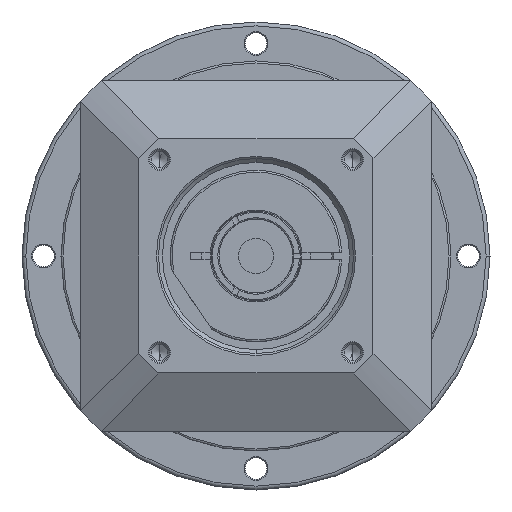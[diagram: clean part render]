
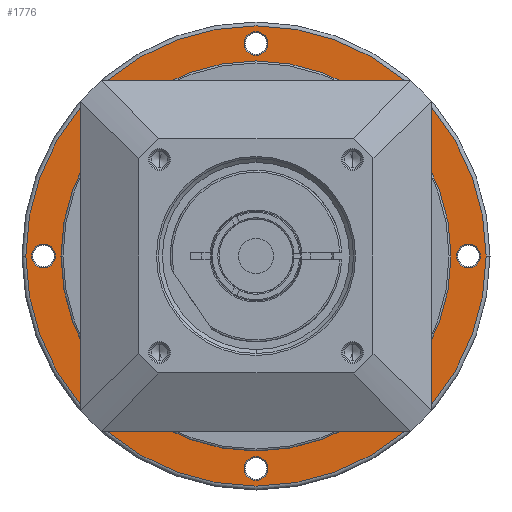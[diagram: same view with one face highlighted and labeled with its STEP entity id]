
A CAD part, left-side view. The second image highlights one B-rep face of the part: STEP entity #1776.
In plain terms, the highlighted planar face has unit normal (-1, 0, 0).
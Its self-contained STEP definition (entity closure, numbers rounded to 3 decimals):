
#283=CARTESIAN_POINT('',(-7.,38.537,-38.537));
#284=DIRECTION('',(-1.,0.,0.));
#285=DIRECTION('',(0.,-1.,0.));
#286=AXIS2_PLACEMENT_3D('',#283,#284,#285);
#301=CARTESIAN_POINT('',(-7.,0.,0.));
#302=DIRECTION('',(1.,0.,0.));
#303=DIRECTION('',(0.,-1.,0.));
#304=AXIS2_PLACEMENT_3D('',#301,#302,#303);
#306=CARTESIAN_POINT('',(-7.,0.,0.));
#307=DIRECTION('',(1.,0.,0.));
#308=DIRECTION('',(0.,1.,0.));
#309=AXIS2_PLACEMENT_3D('',#306,#307,#308);
#311=CARTESIAN_POINT('',(-7.,38.537,-38.537));
#312=DIRECTION('',(-1.,0.,0.));
#313=DIRECTION('',(0.,1.,0.));
#314=AXIS2_PLACEMENT_3D('',#311,#312,#313);
#321=CARTESIAN_POINT('',(-7.,0.,-54.5));
#322=DIRECTION('',(-1.,0.,0.));
#323=DIRECTION('',(0.,-1.,0.));
#324=AXIS2_PLACEMENT_3D('',#321,#322,#323);
#339=CARTESIAN_POINT('',(-7.,0.,-54.5));
#340=DIRECTION('',(-1.,0.,0.));
#341=DIRECTION('',(0.,1.,0.));
#342=AXIS2_PLACEMENT_3D('',#339,#340,#341);
#385=CARTESIAN_POINT('',(-7.,-38.537,-38.537));
#386=DIRECTION('',(-1.,0.,0.));
#387=DIRECTION('',(0.,-1.,0.));
#388=AXIS2_PLACEMENT_3D('',#385,#386,#387);
#403=CARTESIAN_POINT('',(-7.,-38.537,-38.537));
#404=DIRECTION('',(-1.,0.,0.));
#405=DIRECTION('',(0.,1.,0.));
#406=AXIS2_PLACEMENT_3D('',#403,#404,#405);
#449=CARTESIAN_POINT('',(-7.,-54.5,0.));
#450=DIRECTION('',(-1.,0.,0.));
#451=DIRECTION('',(0.,-1.,0.));
#452=AXIS2_PLACEMENT_3D('',#449,#450,#451);
#467=CARTESIAN_POINT('',(-7.,-54.5,0.));
#468=DIRECTION('',(-1.,0.,0.));
#469=DIRECTION('',(0.,1.,0.));
#470=AXIS2_PLACEMENT_3D('',#467,#468,#469);
#513=CARTESIAN_POINT('',(-7.,-38.537,38.537));
#514=DIRECTION('',(-1.,0.,0.));
#515=DIRECTION('',(0.,-1.,0.));
#516=AXIS2_PLACEMENT_3D('',#513,#514,#515);
#531=CARTESIAN_POINT('',(-7.,-38.537,38.537));
#532=DIRECTION('',(-1.,0.,0.));
#533=DIRECTION('',(0.,1.,0.));
#534=AXIS2_PLACEMENT_3D('',#531,#532,#533);
#577=CARTESIAN_POINT('',(-7.,0.,54.5));
#578=DIRECTION('',(-1.,0.,0.));
#579=DIRECTION('',(0.,-1.,0.));
#580=AXIS2_PLACEMENT_3D('',#577,#578,#579);
#595=CARTESIAN_POINT('',(-7.,0.,54.5));
#596=DIRECTION('',(-1.,0.,0.));
#597=DIRECTION('',(0.,1.,0.));
#598=AXIS2_PLACEMENT_3D('',#595,#596,#597);
#641=CARTESIAN_POINT('',(-7.,38.537,38.537));
#642=DIRECTION('',(-1.,0.,0.));
#643=DIRECTION('',(0.,-1.,0.));
#644=AXIS2_PLACEMENT_3D('',#641,#642,#643);
#659=CARTESIAN_POINT('',(-7.,38.537,38.537));
#660=DIRECTION('',(-1.,0.,0.));
#661=DIRECTION('',(0.,1.,0.));
#662=AXIS2_PLACEMENT_3D('',#659,#660,#661);
#801=CARTESIAN_POINT('',(-7.,54.5,0.));
#802=DIRECTION('',(-1.,0.,0.));
#803=DIRECTION('',(0.,-1.,0.));
#804=AXIS2_PLACEMENT_3D('',#801,#802,#803);
#819=CARTESIAN_POINT('',(-7.,54.5,0.));
#820=DIRECTION('',(-1.,0.,0.));
#821=DIRECTION('',(0.,1.,0.));
#822=AXIS2_PLACEMENT_3D('',#819,#820,#821);
#865=CARTESIAN_POINT('',(-7.,0.,0.));
#866=DIRECTION('',(-1.,0.,0.));
#867=DIRECTION('',(0.,-1.,0.));
#868=AXIS2_PLACEMENT_3D('',#865,#866,#867);
#880=CARTESIAN_POINT('',(-7.,0.,0.));
#881=DIRECTION('',(-1.,0.,0.));
#882=DIRECTION('',(0.,1.,0.));
#883=AXIS2_PLACEMENT_3D('',#880,#881,#882);
#941=CARTESIAN_POINT('',(-7.,-59.,0.));
#942=CARTESIAN_POINT('',(-7.,59.,0.));
#943=VERTEX_POINT('',#941);
#944=VERTEX_POINT('',#942);
#957=CARTESIAN_POINT('',(-7.,57.55,0.));
#958=CARTESIAN_POINT('',(-7.,51.45,0.));
#959=VERTEX_POINT('',#957);
#960=VERTEX_POINT('',#958);
#973=CARTESIAN_POINT('',(-7.,41.587,38.537));
#974=CARTESIAN_POINT('',(-7.,35.487,38.537));
#975=VERTEX_POINT('',#973);
#976=VERTEX_POINT('',#974);
#989=CARTESIAN_POINT('',(-7.,3.05,54.5));
#990=CARTESIAN_POINT('',(-7.,-3.05,54.5));
#991=VERTEX_POINT('',#989);
#992=VERTEX_POINT('',#990);
#1005=CARTESIAN_POINT('',(-7.,-35.487,38.537));
#1006=CARTESIAN_POINT('',(-7.,-41.587,38.537));
#1007=VERTEX_POINT('',#1005);
#1008=VERTEX_POINT('',#1006);
#1021=CARTESIAN_POINT('',(-7.,-51.45,0.));
#1022=CARTESIAN_POINT('',(-7.,-57.55,0.));
#1023=VERTEX_POINT('',#1021);
#1024=VERTEX_POINT('',#1022);
#1037=CARTESIAN_POINT('',(-7.,-35.487,-38.537));
#1038=CARTESIAN_POINT('',(-7.,-41.587,-38.537));
#1039=VERTEX_POINT('',#1037);
#1040=VERTEX_POINT('',#1038);
#1053=CARTESIAN_POINT('',(-7.,3.05,-54.5));
#1054=CARTESIAN_POINT('',(-7.,-3.05,-54.5));
#1055=VERTEX_POINT('',#1053);
#1056=VERTEX_POINT('',#1054);
#1069=CARTESIAN_POINT('',(-7.,41.587,-38.537));
#1070=CARTESIAN_POINT('',(-7.,35.487,-38.537));
#1071=VERTEX_POINT('',#1069);
#1072=VERTEX_POINT('',#1070);
#1105=CARTESIAN_POINT('',(-7.,-49.6,0.));
#1106=CARTESIAN_POINT('',(-7.,49.6,0.));
#1107=VERTEX_POINT('',#1105);
#1108=VERTEX_POINT('',#1106);
#1712=CARTESIAN_POINT('',(-7.,0.,0.));
#1713=DIRECTION('',(1.,0.,0.));
#1714=DIRECTION('',(0.,-1.,0.));
#1715=AXIS2_PLACEMENT_3D('',#1712,#1713,#1714);
#1716=PLANE('',#1715);
#1718=ORIENTED_EDGE('',*,*,#1717,.F.);
#1720=ORIENTED_EDGE('',*,*,#1719,.F.);
#1721=EDGE_LOOP('',(#1718,#1720));
#1722=FACE_OUTER_BOUND('',#1721,.F.);
#1723=ORIENTED_EDGE('',*,*,#1702,.T.);
#1725=ORIENTED_EDGE('',*,*,#1724,.T.);
#1726=EDGE_LOOP('',(#1723,#1725));
#1727=FACE_BOUND('',#1726,.F.);
#1729=ORIENTED_EDGE('',*,*,#1728,.T.);
#1731=ORIENTED_EDGE('',*,*,#1730,.T.);
#1732=EDGE_LOOP('',(#1729,#1731));
#1733=FACE_BOUND('',#1732,.F.);
#1735=ORIENTED_EDGE('',*,*,#1734,.T.);
#1737=ORIENTED_EDGE('',*,*,#1736,.T.);
#1738=EDGE_LOOP('',(#1735,#1737));
#1739=FACE_BOUND('',#1738,.F.);
#1741=ORIENTED_EDGE('',*,*,#1740,.T.);
#1743=ORIENTED_EDGE('',*,*,#1742,.T.);
#1744=EDGE_LOOP('',(#1741,#1743));
#1745=FACE_BOUND('',#1744,.F.);
#1747=ORIENTED_EDGE('',*,*,#1746,.T.);
#1749=ORIENTED_EDGE('',*,*,#1748,.T.);
#1750=EDGE_LOOP('',(#1747,#1749));
#1751=FACE_BOUND('',#1750,.F.);
#1753=ORIENTED_EDGE('',*,*,#1752,.T.);
#1755=ORIENTED_EDGE('',*,*,#1754,.T.);
#1756=EDGE_LOOP('',(#1753,#1755));
#1757=FACE_BOUND('',#1756,.F.);
#1759=ORIENTED_EDGE('',*,*,#1758,.T.);
#1761=ORIENTED_EDGE('',*,*,#1760,.T.);
#1762=EDGE_LOOP('',(#1759,#1761));
#1763=FACE_BOUND('',#1762,.F.);
#1765=ORIENTED_EDGE('',*,*,#1764,.F.);
#1767=ORIENTED_EDGE('',*,*,#1766,.F.);
#1768=EDGE_LOOP('',(#1765,#1767));
#1769=FACE_BOUND('',#1768,.F.);
#1771=ORIENTED_EDGE('',*,*,#1770,.T.);
#1773=ORIENTED_EDGE('',*,*,#1772,.T.);
#1774=EDGE_LOOP('',(#1771,#1773));
#1775=FACE_BOUND('',#1774,.F.);
#1776=ADVANCED_FACE('',(#1722,#1727,#1733,#1739,#1745,#1751,#1757,#1763,#1769,
#1775),#1716,.F.);
#287=CIRCLE('',#286,3.05);
#305=CIRCLE('',#304,49.6);
#310=CIRCLE('',#309,49.6);
#315=CIRCLE('',#314,3.05);
#325=CIRCLE('',#324,3.05);
#343=CIRCLE('',#342,3.05);
#389=CIRCLE('',#388,3.05);
#407=CIRCLE('',#406,3.05);
#453=CIRCLE('',#452,3.05);
#471=CIRCLE('',#470,3.05);
#517=CIRCLE('',#516,3.05);
#535=CIRCLE('',#534,3.05);
#581=CIRCLE('',#580,3.05);
#599=CIRCLE('',#598,3.05);
#645=CIRCLE('',#644,3.05);
#663=CIRCLE('',#662,3.05);
#805=CIRCLE('',#804,3.05);
#823=CIRCLE('',#822,3.05);
#869=CIRCLE('',#868,59.);
#884=CIRCLE('',#883,59.);
#1702=EDGE_CURVE('',#1072,#1071,#287,.T.);
#1717=EDGE_CURVE('',#943,#944,#869,.T.);
#1719=EDGE_CURVE('',#944,#943,#884,.T.);
#1724=EDGE_CURVE('',#1071,#1072,#315,.T.);
#1728=EDGE_CURVE('',#1056,#1055,#325,.T.);
#1730=EDGE_CURVE('',#1055,#1056,#343,.T.);
#1734=EDGE_CURVE('',#1040,#1039,#389,.T.);
#1736=EDGE_CURVE('',#1039,#1040,#407,.T.);
#1740=EDGE_CURVE('',#1024,#1023,#453,.T.);
#1742=EDGE_CURVE('',#1023,#1024,#471,.T.);
#1746=EDGE_CURVE('',#1008,#1007,#517,.T.);
#1748=EDGE_CURVE('',#1007,#1008,#535,.T.);
#1752=EDGE_CURVE('',#992,#991,#581,.T.);
#1754=EDGE_CURVE('',#991,#992,#599,.T.);
#1758=EDGE_CURVE('',#976,#975,#645,.T.);
#1760=EDGE_CURVE('',#975,#976,#663,.T.);
#1764=EDGE_CURVE('',#1107,#1108,#305,.T.);
#1766=EDGE_CURVE('',#1108,#1107,#310,.T.);
#1770=EDGE_CURVE('',#960,#959,#805,.T.);
#1772=EDGE_CURVE('',#959,#960,#823,.T.);
